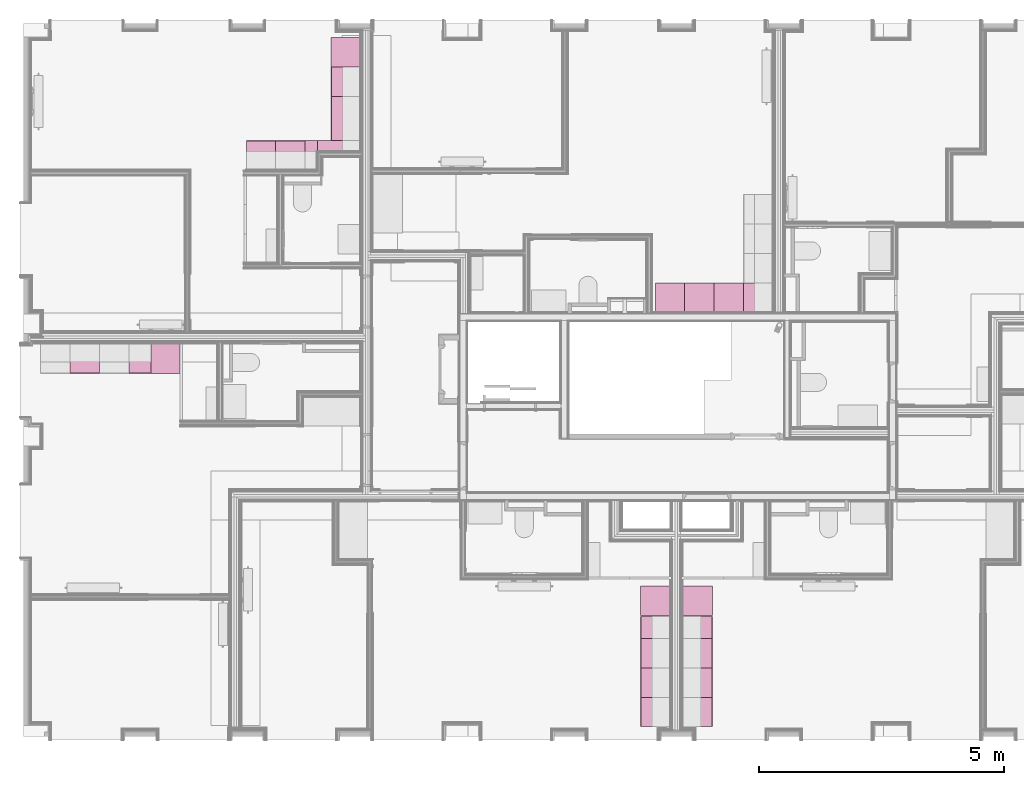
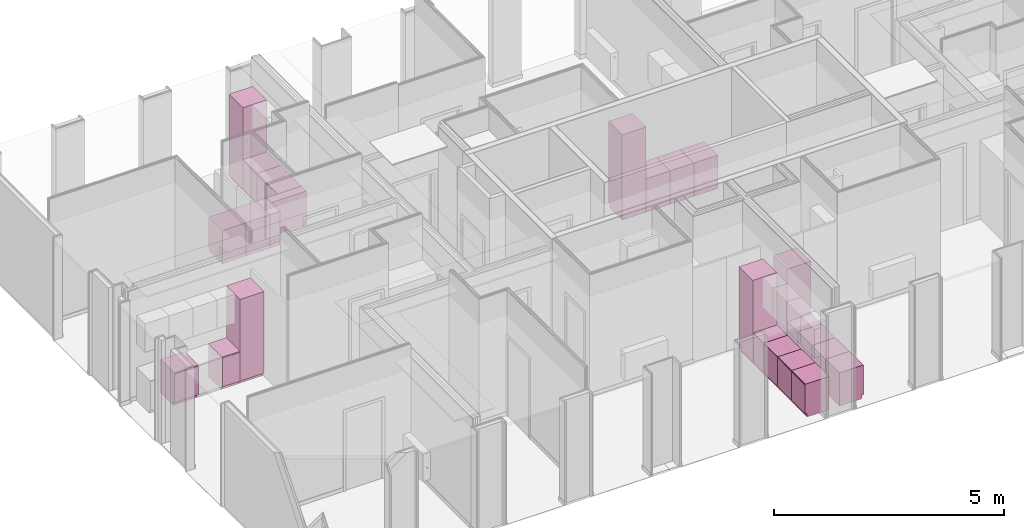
# One storey, part 63 of 64: 24 furnishings.
"""IFC2X3 building model written with IfcOpenShell, lengths in metres."""

from ifc_helpers import new_model, entity, si_unit, converted_unit, derived_unit, money_unit, direction, frame, origin_with_axes, place, context, subcontext, project, spatial, faceted_brep, material, type_object, element, save


model = new_model("IFC2X3")

# Units and contexts
model_context = context("Model", 3, precision=1e-05, world=origin_with_axes(), true_north=direction((0.0, 1.0)))
body_context = subcontext(model_context, "Body", "Model", "MODEL_VIEW", scale=1.0)
ifc_project = project(units=[si_unit("LENGTHUNIT", "METRE"), si_unit("AREAUNIT", "SQUARE_METRE"), si_unit("VOLUMEUNIT", "CUBIC_METRE"), si_unit("ABSORBEDDOSEUNIT", "GRAY"), si_unit("AMOUNTOFSUBSTANCEUNIT", "MOLE"), si_unit("DOSEEQUIVALENTUNIT", "SIEVERT"), si_unit("ELECTRICCAPACITANCEUNIT", "FARAD"), si_unit("ELECTRICCHARGEUNIT", "COULOMB"), si_unit("ELECTRICCONDUCTANCEUNIT", "SIEMENS"), si_unit("ELECTRICCURRENTUNIT", "AMPERE"), si_unit("ELECTRICRESISTANCEUNIT", "OHM"), si_unit("ELECTRICVOLTAGEUNIT", "VOLT"), si_unit("ENERGYUNIT", "JOULE"), si_unit("FORCEUNIT", "NEWTON"), si_unit("FREQUENCYUNIT", "HERTZ"), si_unit("ILLUMINANCEUNIT", "LUX"), si_unit("INDUCTANCEUNIT", "HENRY"), si_unit("LUMINOUSFLUXUNIT", "LUMEN"), si_unit("LUMINOUSINTENSITYUNIT", "CANDELA"), si_unit("MAGNETICFLUXDENSITYUNIT", "TESLA"), si_unit("MAGNETICFLUXUNIT", "WEBER"), si_unit("MASSUNIT", "GRAM"), converted_unit("PLANEANGLEUNIT", "degree", entity("IfcReal", 0.0174532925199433), si_unit("PLANEANGLEUNIT", "RADIAN"), dimensions=[0, 0, 0, 0, 0, 0, 0]), si_unit("POWERUNIT", "WATT"), si_unit("PRESSUREUNIT", "PASCAL"), si_unit("RADIOACTIVITYUNIT", "BECQUEREL"), si_unit("SOLIDANGLEUNIT", "STERADIAN"), si_unit("THERMODYNAMICTEMPERATUREUNIT", "KELVIN"), si_unit("TIMEUNIT", "SECOND"), derived_unit("ACCELERATIONUNIT", [(si_unit("LENGTHUNIT", "METRE"), 1), (si_unit("TIMEUNIT", "SECOND"), -2)]), derived_unit("ANGULARVELOCITYUNIT", [(converted_unit("PLANEANGLEUNIT", "degree", entity("IfcReal", 0.0174532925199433), si_unit("PLANEANGLEUNIT", "RADIAN"), dimensions=[0, 0, 0, 0, 0, 0, 0]), 1), (si_unit("TIMEUNIT", "SECOND"), -1)]), derived_unit("CURVATUREUNIT", [(converted_unit("PLANEANGLEUNIT", "degree", entity("IfcReal", 0.0174532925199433), si_unit("PLANEANGLEUNIT", "RADIAN"), dimensions=[0, 0, 0, 0, 0, 0, 0]), 1), (si_unit("LENGTHUNIT", "METRE"), -1)]), derived_unit("DYNAMICVISCOSITYUNIT", [(si_unit("PRESSUREUNIT", "PASCAL"), 1), (si_unit("TIMEUNIT", "SECOND"), 1)]), derived_unit("HEATFLUXDENSITYUNIT", [(si_unit("POWERUNIT", "WATT"), 1), (si_unit("LENGTHUNIT", "METRE"), -2)]), derived_unit("HEATINGVALUEUNIT", [(si_unit("ENERGYUNIT", "JOULE"), 1), (si_unit("MASSUNIT", "GRAM"), -1)]), derived_unit("INTEGERCOUNTRATEUNIT", [(si_unit("TIMEUNIT", "SECOND"), -1)]), derived_unit("IONCONCENTRATIONUNIT", [(si_unit("MASSUNIT", "GRAM"), 1), (si_unit("VOLUMEUNIT", "CUBIC_METRE"), -1)]), derived_unit("ISOTHERMALMOISTURECAPACITYUNIT", [(si_unit("VOLUMEUNIT", "CUBIC_METRE"), 1), (si_unit("MASSUNIT", "GRAM"), -1)]), derived_unit("KINEMATICVISCOSITYUNIT", [(si_unit("AREAUNIT", "SQUARE_METRE"), 1), (si_unit("TIMEUNIT", "SECOND"), -1)]), derived_unit("LINEARFORCEUNIT", [(si_unit("FORCEUNIT", "NEWTON"), 1), (si_unit("LENGTHUNIT", "METRE"), -1)]), derived_unit("LINEARMOMENTUNIT", [(si_unit("FORCEUNIT", "NEWTON"), 1), (si_unit("LENGTHUNIT", "METRE"), -1)]), derived_unit("LINEARSTIFFNESSUNIT", [(si_unit("FORCEUNIT", "NEWTON"), 1), (si_unit("LENGTHUNIT", "METRE"), -1)]), derived_unit("LINEARVELOCITYUNIT", [(si_unit("LENGTHUNIT", "METRE"), 1), (si_unit("TIMEUNIT", "SECOND"), -1)]), derived_unit("LUMINOUSINTENSITYDISTRIBUTIONUNIT", [(si_unit("LUMINOUSINTENSITYUNIT", "CANDELA"), 1), (si_unit("LUMINOUSFLUXUNIT", "LUMEN"), -1)]), derived_unit("MASSDENSITYUNIT", [(si_unit("MASSUNIT", "GRAM"), 1), (si_unit("VOLUMEUNIT", "CUBIC_METRE"), -1)]), derived_unit("MASSFLOWRATEUNIT", [(si_unit("MASSUNIT", "GRAM"), 1), (si_unit("TIMEUNIT", "SECOND"), -1)]), derived_unit("MASSPERLENGTHUNIT", [(si_unit("MASSUNIT", "GRAM"), 1), (si_unit("LENGTHUNIT", "METRE"), -1)]), derived_unit("MODULUSOFELASTICITYUNIT", [(si_unit("FORCEUNIT", "NEWTON"), 1), (si_unit("AREAUNIT", "SQUARE_METRE"), -1)]), derived_unit("MODULUSOFLINEARSUBGRADEREACTIONUNIT", [(si_unit("FORCEUNIT", "NEWTON"), 1), (si_unit("LENGTHUNIT", "METRE"), -2)]), derived_unit("MODULUSOFROTATIONALSUBGRADEREACTIONUNIT", [(si_unit("FORCEUNIT", "NEWTON"), 1), (si_unit("LENGTHUNIT", "METRE"), 1)]), derived_unit("MODULUSOFSUBGRADEREACTIONUNIT", [(si_unit("FORCEUNIT", "NEWTON"), 1), (si_unit("VOLUMEUNIT", "CUBIC_METRE"), -1)]), derived_unit("MOISTUREDIFFUSIVITYUNIT", [(si_unit("VOLUMEUNIT", "CUBIC_METRE"), 1), (si_unit("TIMEUNIT", "SECOND"), -1)]), derived_unit("MOLECULARWEIGHTUNIT", [(si_unit("MASSUNIT", "GRAM"), 1), (si_unit("AMOUNTOFSUBSTANCEUNIT", "MOLE"), -1)]), derived_unit("PLANARFORCEUNIT", [(si_unit("FORCEUNIT", "NEWTON"), 1), (si_unit("LENGTHUNIT", "METRE"), -2)]), derived_unit("ROTATIONALFREQUENCYUNIT", [(si_unit("TIMEUNIT", "SECOND"), -1)]), derived_unit("ROTATIONALMASSUNIT", [(si_unit("MASSUNIT", "GRAM"), 1), (si_unit("LENGTHUNIT", "METRE"), 2)]), derived_unit("ROTATIONALSTIFFNESSUNIT", [(si_unit("FORCEUNIT", "NEWTON"), 1), (si_unit("LENGTHUNIT", "METRE"), 1), (converted_unit("PLANEANGLEUNIT", "degree", entity("IfcReal", 0.0174532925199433), si_unit("PLANEANGLEUNIT", "RADIAN"), dimensions=[0, 0, 0, 0, 0, 0, 0]), -1)]), derived_unit("SECTIONAREAINTEGRALUNIT", [(si_unit("LENGTHUNIT", "METRE"), 5)]), derived_unit("SECTIONMODULUSUNIT", [(si_unit("LENGTHUNIT", "METRE"), 3)]), derived_unit("SHEARMODULUSUNIT", [(si_unit("FORCEUNIT", "NEWTON"), 1), (si_unit("AREAUNIT", "SQUARE_METRE"), -1)]), derived_unit("SOUNDPOWERUNIT", [(si_unit("ENERGYUNIT", "JOULE"), 1), (si_unit("TIMEUNIT", "SECOND"), -1)]), derived_unit("SPECIFICHEATCAPACITYUNIT", [(si_unit("FORCEUNIT", "NEWTON"), 1), (si_unit("MASSUNIT", "GRAM"), -1), (si_unit("THERMODYNAMICTEMPERATUREUNIT", "KELVIN"), -1)]), derived_unit("TEMPERATUREGRADIENTUNIT", [(si_unit("THERMODYNAMICTEMPERATUREUNIT", "KELVIN"), 1), (si_unit("LENGTHUNIT", "METRE"), -1)]), derived_unit("THERMALADMITTANCEUNIT", [(si_unit("POWERUNIT", "WATT"), 1), (si_unit("AREAUNIT", "SQUARE_METRE"), -1), (si_unit("THERMODYNAMICTEMPERATUREUNIT", "KELVIN"), -1)]), derived_unit("THERMALCONDUCTANCEUNIT", [(si_unit("POWERUNIT", "WATT"), 1), (si_unit("LENGTHUNIT", "METRE"), -1), (si_unit("THERMODYNAMICTEMPERATUREUNIT", "KELVIN"), -1)]), derived_unit("THERMALEXPANSIONCOEFFICIENTUNIT", [(si_unit("THERMODYNAMICTEMPERATUREUNIT", "KELVIN"), -1)]), derived_unit("THERMALRESISTANCEUNIT", [(si_unit("AREAUNIT", "SQUARE_METRE"), 1), (si_unit("POWERUNIT", "WATT"), -1)]), derived_unit("THERMALTRANSMITTANCEUNIT", [(si_unit("POWERUNIT", "WATT"), 1), (si_unit("AREAUNIT", "SQUARE_METRE"), -1), (si_unit("THERMODYNAMICTEMPERATUREUNIT", "KELVIN"), -1)]), derived_unit("TORQUEUNIT", [(si_unit("FORCEUNIT", "NEWTON"), 1), (si_unit("LENGTHUNIT", "METRE"), 1)]), derived_unit("VAPORPERMEABILITYUNIT", [(si_unit("MASSUNIT", "GRAM"), 1), (si_unit("TIMEUNIT", "SECOND"), -1)]), derived_unit("VOLUMETRICFLOWRATEUNIT", [(si_unit("VOLUMEUNIT", "CUBIC_METRE"), 1), (si_unit("TIMEUNIT", "SECOND"), -1)]), derived_unit("WARPINGCONSTANTUNIT", [(si_unit("LENGTHUNIT", "METRE"), 6)]), derived_unit("WARPINGMOMENTUNIT", [(si_unit("FORCEUNIT", "NEWTON"), 1), (si_unit("LENGTHUNIT", "METRE"), 2)]), money_unit("GBP")], contexts=[model_context])

# Site, building, storey, space
site_placement = place(None, origin_with_axes())
site = spatial("IfcSite", under=ifc_project, at=site_placement, Name="Site", CompositionType="ELEMENT")
building_placement = place(site_placement, origin_with_axes())
building = spatial("IfcBuilding", under=site, at=building_placement, Name="Building01", CompositionType="ELEMENT")
storey_placement = place(building_placement, frame((0.0, 0.0, 8.64), z_axis=(0.0, 0.0, 1.0), x_axis=(1.0, 0.0, 0.0)))
storey = spatial("IfcBuildingStorey", under=building, at=storey_placement, Name="2F", CompositionType="ELEMENT", Elevation=8.64)
space_1_placement = place(storey_placement, frame((0.318, 8.21067, 0.017975), z_axis=(0.0, 0.0, 1.0), x_axis=(0.0, -1.0, 0.0)))
space_1 = spatial("IfcSpace", under=storey, at=space_1_placement, Name="13", CompositionType="ELEMENT", InteriorOrExteriorSpace="NOTDEFINED")

# Furnishing
ifc_material = material(Name="A_BSUK_StorageScreening_Ffe")
furniture_type_1 = type_object("IfcFurnitureType", Name="SHE_A-Kitchenunit-Tall")
placement = place(storey_placement, frame((0.0, 0.0, -8.64), z_axis=(0.0, 0.0, 1.0), x_axis=(1.0, 0.0, 0.0)))
element("IfcFurnishingElement", 1, at=placement, inside=space_1, type_object=furniture_type_1, material=ifc_material, Name="13", ObjectType="SHE_A-Kitchenunit-Tall", context=body_context, shape_type="Brep", body=[
    faceted_brep([(2.77073, 8.18817, 10.904), (3.37073, 8.18817, 10.904), (3.37073, 8.18817, 8.644), (2.77073, 8.18817, 8.644), (3.37073, 7.58817, 10.904), (3.37073, 7.58817, 8.744), (3.37073, 7.63817, 8.744), (3.37073, 7.63817, 8.644), (2.77073, 7.63817, 8.744), (2.77073, 7.63817, 8.644), (2.77073, 7.58817, 8.744), (2.77073, 7.58817, 10.904)], [[[0, 1, 2, 3]], [[1, 4, 5, 6, 7, 2]], [[8, 9, 7, 6]], [[8, 10, 11, 0, 3, 9]], [[2, 7, 9, 3]], [[5, 4, 11, 10]], [[11, 4, 1, 0]], [[6, 5, 10, 8]]]),
])

# Space
space_2_placement = place(storey_placement, frame((11.275, 10.415, 0.017975), z_axis=(0.0, 0.0, 1.0), x_axis=(1.0, 0.0, 0.0)))
space_2 = spatial("IfcSpace", under=storey, at=space_2_placement, Name="k/d/l", CompositionType="ELEMENT", InteriorOrExteriorSpace="NOTDEFINED")

# Furnishing
element("IfcFurnishingElement", 2, at=placement, inside=space_2, type_object=furniture_type_1, material=ifc_material, Name="15", ObjectType="SHE_A-Kitchenunit-Tall", context=body_context, shape_type="Brep", body=[
    faceted_brep([(13.668132, 8.835, 10.904), (13.068132, 8.835, 10.904), (13.068132, 8.835, 8.644), (13.668132, 8.835, 8.644), (13.068132, 9.435, 10.904), (13.068132, 9.435, 8.744), (13.068132, 9.385, 8.744), (13.068132, 9.385, 8.644), (13.668132, 9.385, 8.744), (13.668132, 9.385, 8.644), (13.668132, 9.435, 8.744), (13.668132, 9.435, 10.904)], [[[0, 1, 2, 3]], [[1, 4, 5, 6, 7, 2]], [[8, 9, 7, 6]], [[8, 10, 11, 0, 3, 9]], [[2, 7, 9, 3]], [[5, 4, 11, 10]], [[11, 4, 1, 0]], [[6, 5, 10, 8]]]),
])

# Space
space_3_placement = place(storey_placement, frame((17.9025, 3.385, 0.017975), z_axis=(0.0, 0.0, 1.0), x_axis=(-1.0, 0.0, 0.0)))
space_3 = spatial("IfcSpace", under=storey, at=space_3_placement, Name="k/d/l", CompositionType="ELEMENT", InteriorOrExteriorSpace="NOTDEFINED")

# Furnishing
element("IfcFurnishingElement", 3, at=placement, inside=space_3, type_object=furniture_type_1, material=ifc_material, Name="11", ObjectType="SHE_A-Kitchenunit-Tall", context=body_context, shape_type="Brep", body=[
    faceted_brep([(13.631, 3.245001, 8.644), (13.631, 2.645001, 8.644), (13.631, 2.645001, 10.904), (13.631, 3.245001, 10.904), (14.181, 2.645001, 8.644), (14.181, 2.645001, 8.744), (14.231, 2.645001, 8.744), (14.231, 2.645001, 10.904), (14.181, 3.245001, 8.644), (14.181, 3.245001, 8.744), (14.231, 3.245001, 10.904), (14.231, 3.245001, 8.744)], [[[0, 1, 2, 3]], [[1, 4, 5, 6, 7, 2]], [[5, 4, 8, 9]], [[8, 0, 3, 10, 11, 9]], [[0, 8, 4, 1]], [[11, 10, 7, 6]], [[3, 2, 7, 10]], [[9, 11, 6, 5]]]),
])

# Space
space_4_placement = place(storey_placement, frame((6.595, 4.98, 0.017975), z_axis=(0.0, 0.0, 1.0), x_axis=(0.0, -1.0, 0.0)))
space_4 = spatial("IfcSpace", under=storey, at=space_4_placement, Name="k/d/l", CompositionType="ELEMENT", InteriorOrExteriorSpace="NOTDEFINED")

# Furnishing
element("IfcFurnishingElement", 4, at=placement, inside=space_4, type_object=furniture_type_1, material=ifc_material, Name="12", ObjectType="SHE_A-Kitchenunit-Tall", context=body_context, shape_type="Brep", body=[
    faceted_brep([(13.369, 3.245001, 10.904), (13.369, 2.645001, 10.904), (13.369, 2.645001, 8.644), (13.369, 3.245001, 8.644), (12.769, 2.645001, 10.904), (12.769, 2.645001, 8.744), (12.819, 2.645001, 8.744), (12.819, 2.645001, 8.644), (12.819, 3.245001, 8.744), (12.819, 3.245001, 8.644), (12.769, 3.245001, 8.744), (12.769, 3.245001, 10.904)], [[[0, 1, 2, 3]], [[1, 4, 5, 6, 7, 2]], [[8, 9, 7, 6]], [[8, 10, 11, 0, 3, 9]], [[2, 7, 9, 3]], [[5, 4, 11, 10]], [[11, 4, 1, 0]], [[6, 5, 10, 8]]]),
])

# Space
space_5_placement = place(storey_placement, frame((0.318, 11.72567, 0.017975), z_axis=(0.0, 0.0, 1.0), x_axis=(1.0, 0.0, 0.0)))
space_5 = spatial("IfcSpace", under=storey, at=space_5_placement, Name="k/d/l", CompositionType="ELEMENT", InteriorOrExteriorSpace="NOTDEFINED")

# Furnishings
element("IfcFurnishingElement", 5, at=placement, inside=space_5, type_object=furniture_type_1, material=ifc_material, Name="14", ObjectType="SHE_A-Kitchenunit-Tall", context=body_context, shape_type="Brep", body=[
    faceted_brep([(7.049669, 13.84067, 8.644), (7.049669, 14.44067, 8.644), (7.049669, 14.44067, 10.904), (7.049669, 13.84067, 10.904), (6.499669, 14.44067, 8.644), (6.499669, 14.44067, 8.744), (6.449669, 14.44067, 8.744), (6.449669, 14.44067, 10.904), (6.499669, 13.84067, 8.644), (6.499669, 13.84067, 8.744), (6.449669, 13.84067, 10.904), (6.449669, 13.84067, 8.744)], [[[0, 1, 2, 3]], [[1, 4, 5, 6, 7, 2]], [[5, 4, 8, 9]], [[8, 0, 3, 10, 11, 9]], [[0, 8, 4, 1]], [[11, 10, 7, 6]], [[3, 2, 7, 10]], [[9, 11, 6, 5]]]),
])
furniture_type_2 = type_object("IfcFurnitureType", Name="SHE_A-Kitchenunit-Base")
element("IfcFurnishingElement", 6, at=placement, inside=space_1, type_object=furniture_type_2, material=ifc_material, Name="13", ObjectType="SHE_A-Kitchenunit-Base", context=body_context, shape_type="Brep", body=[
    faceted_brep([(1.12073, 8.18817, 9.529), (1.72073, 8.18817, 9.529), (1.72073, 8.18817, 8.644), (1.12073, 8.18817, 8.644), (1.72073, 7.595241, 9.529), (1.72073, 7.58817, 9.521929), (1.72073, 7.58817, 9.511071), (1.72073, 7.595241, 9.504), (1.72073, 7.58817, 9.504), (1.72073, 7.58817, 8.744), (1.72073, 7.63817, 8.744), (1.72073, 7.63817, 8.644), (1.12073, 7.63817, 8.744), (1.12073, 7.63817, 8.644), (1.12073, 7.58817, 8.744), (1.12073, 7.58817, 9.504), (1.12073, 7.595241, 9.504), (1.12073, 7.58817, 9.511071), (1.12073, 7.58817, 9.521929), (1.12073, 7.595241, 9.529)], [[[0, 1, 2, 3]], [[1, 4, 5, 6, 7, 8, 9, 10, 11, 2]], [[12, 13, 11, 10]], [[12, 14, 15, 16, 17, 18, 19, 0, 3, 13]], [[2, 11, 13, 3]], [[7, 16, 15, 8]], [[9, 8, 15, 14]], [[10, 9, 14, 12]], [[5, 18, 17, 6]], [[19, 4, 1, 0]], [[6, 17, 16, 7]], [[4, 19, 18, 5]]]),
])
element("IfcFurnishingElement", 7, at=placement, inside=space_2, type_object=furniture_type_2, material=ifc_material, Name="15", ObjectType="SHE_A-Kitchenunit-Base", context=body_context, shape_type="Brep", body=[
    faceted_brep([(14.868132, 8.835, 9.529), (14.268132, 8.835, 9.529), (14.268132, 8.835, 8.644), (14.868132, 8.835, 8.644), (14.268132, 9.427929, 9.529), (14.268132, 9.435, 9.521929), (14.268132, 9.435, 9.511071), (14.268132, 9.427929, 9.504), (14.268132, 9.435, 9.504), (14.268132, 9.435, 8.744), (14.268132, 9.385, 8.744), (14.268132, 9.385, 8.644), (14.868132, 9.385, 8.744), (14.868132, 9.385, 8.644), (14.868132, 9.435, 8.744), (14.868132, 9.435, 9.504), (14.868132, 9.427929, 9.504), (14.868132, 9.435, 9.511071), (14.868132, 9.435, 9.521929), (14.868132, 9.427929, 9.529)], [[[0, 1, 2, 3]], [[1, 4, 5, 6, 7, 8, 9, 10, 11, 2]], [[12, 13, 11, 10]], [[12, 14, 15, 16, 17, 18, 19, 0, 3, 13]], [[2, 11, 13, 3]], [[7, 16, 15, 8]], [[9, 8, 15, 14]], [[10, 9, 14, 12]], [[5, 18, 17, 6]], [[19, 4, 1, 0]], [[6, 17, 16, 7]], [[4, 19, 18, 5]]]),
])
element("IfcFurnishingElement", 8, at=placement, inside=space_2, type_object=furniture_type_2, material=ifc_material, Name="15", ObjectType="SHE_A-Kitchenunit-Base", context=body_context, shape_type="Brep", body=[
    faceted_brep([(15.468132, 8.835, 9.529), (14.868132, 8.835, 9.529), (14.868132, 8.835, 8.644), (15.468132, 8.835, 8.644), (14.868132, 9.427929, 9.529), (14.868132, 9.435, 9.521929), (14.868132, 9.435, 9.511071), (14.868132, 9.427929, 9.504), (14.868132, 9.435, 9.504), (14.868132, 9.435, 8.744), (14.868132, 9.385, 8.744), (14.868132, 9.385, 8.644), (15.468132, 9.385, 8.744), (15.468132, 9.385, 8.644), (15.468132, 9.435, 8.744), (15.468132, 9.435, 9.504), (15.468132, 9.427929, 9.504), (15.468132, 9.435, 9.511071), (15.468132, 9.435, 9.521929), (15.468132, 9.427929, 9.529)], [[[0, 1, 2, 3]], [[1, 4, 5, 6, 7, 8, 9, 10, 11, 2]], [[12, 13, 11, 10]], [[12, 14, 15, 16, 17, 18, 19, 0, 3, 13]], [[2, 11, 13, 3]], [[7, 16, 15, 8]], [[9, 8, 15, 14]], [[10, 9, 14, 12]], [[5, 18, 17, 6]], [[19, 4, 1, 0]], [[6, 17, 16, 7]], [[4, 19, 18, 5]]]),
])
element("IfcFurnishingElement", 9, at=placement, inside=space_2, type_object=furniture_type_2, material=ifc_material, Name="15", ObjectType="SHE_A-Kitchenunit-Base", context=body_context, shape_type="Brep", body=[
    faceted_brep([(14.268132, 8.835, 9.529), (13.668132, 8.835, 9.529), (13.668132, 8.835, 8.644), (14.268132, 8.835, 8.644), (13.668132, 9.427929, 9.529), (13.668132, 9.435, 9.521929), (13.668132, 9.435, 9.511071), (13.668132, 9.427929, 9.504), (13.668132, 9.435, 9.504), (13.668132, 9.435, 8.744), (13.668132, 9.385, 8.744), (13.668132, 9.385, 8.644), (14.268132, 9.385, 8.744), (14.268132, 9.385, 8.644), (14.268132, 9.435, 8.744), (14.268132, 9.435, 9.504), (14.268132, 9.427929, 9.504), (14.268132, 9.435, 9.511071), (14.268132, 9.435, 9.521929), (14.268132, 9.427929, 9.529)], [[[0, 1, 2, 3]], [[1, 4, 5, 6, 7, 8, 9, 10, 11, 2]], [[12, 13, 11, 10]], [[12, 14, 15, 16, 17, 18, 19, 0, 3, 13]], [[2, 11, 13, 3]], [[7, 16, 15, 8]], [[9, 8, 15, 14]], [[10, 9, 14, 12]], [[5, 18, 17, 6]], [[19, 4, 1, 0]], [[6, 17, 16, 7]], [[4, 19, 18, 5]]]),
])
element("IfcFurnishingElement", 10, at=placement, inside=space_3, type_object=furniture_type_2, material=ifc_material, Name="11", ObjectType="SHE_A-Kitchenunit-Base", context=body_context, shape_type="Brep", body=[
    faceted_brep([(13.631, 2.175001, 8.644), (13.631, 1.575001, 8.644), (13.631, 1.575001, 9.529), (13.631, 2.175001, 9.529), (14.181, 1.575001, 8.644), (14.181, 1.575001, 8.744), (14.231, 1.575001, 8.744), (14.231, 1.575001, 9.504), (14.223929, 1.575001, 9.504), (14.231, 1.575001, 9.511071), (14.231, 1.575001, 9.521929), (14.223929, 1.575001, 9.529), (14.181, 2.175001, 8.644), (14.181, 2.175001, 8.744), (14.223929, 2.175001, 9.529), (14.231, 2.175001, 9.521929), (14.231, 2.175001, 9.511071), (14.223929, 2.175001, 9.504), (14.231, 2.175001, 9.504), (14.231, 2.175001, 8.744)], [[[0, 1, 2, 3]], [[1, 4, 5, 6, 7, 8, 9, 10, 11, 2]], [[5, 4, 12, 13]], [[12, 0, 3, 14, 15, 16, 17, 18, 19, 13]], [[0, 12, 4, 1]], [[7, 18, 17, 8]], [[19, 18, 7, 6]], [[13, 19, 6, 5]], [[9, 16, 15, 10]], [[3, 2, 11, 14]], [[8, 17, 16, 9]], [[10, 15, 14, 11]]]),
])
element("IfcFurnishingElement", 11, at=placement, inside=space_3, type_object=furniture_type_2, material=ifc_material, Name="11", ObjectType="SHE_A-Kitchenunit-Base", context=body_context, shape_type="Brep", body=[
    faceted_brep([(13.631, 1.575001, 8.644), (13.631, 0.975001, 8.644), (13.631, 0.975001, 9.529), (13.631, 1.575001, 9.529), (14.181, 0.975001, 8.644), (14.181, 0.975001, 8.744), (14.231, 0.975001, 8.744), (14.231, 0.975001, 9.504), (14.223929, 0.975001, 9.504), (14.231, 0.975001, 9.511071), (14.231, 0.975001, 9.521929), (14.223929, 0.975001, 9.529), (14.181, 1.575001, 8.644), (14.181, 1.575001, 8.744), (14.223929, 1.575001, 9.529), (14.231, 1.575001, 9.521929), (14.231, 1.575001, 9.511071), (14.223929, 1.575001, 9.504), (14.231, 1.575001, 9.504), (14.231, 1.575001, 8.744)], [[[0, 1, 2, 3]], [[1, 4, 5, 6, 7, 8, 9, 10, 11, 2]], [[5, 4, 12, 13]], [[12, 0, 3, 14, 15, 16, 17, 18, 19, 13]], [[0, 12, 4, 1]], [[7, 18, 17, 8]], [[19, 18, 7, 6]], [[13, 19, 6, 5]], [[9, 16, 15, 10]], [[3, 2, 11, 14]], [[8, 17, 16, 9]], [[10, 15, 14, 11]]]),
])
element("IfcFurnishingElement", 12, at=placement, inside=space_3, type_object=furniture_type_2, material=ifc_material, Name="11", ObjectType="SHE_A-Kitchenunit-Base", context=body_context, shape_type="Brep", body=[
    faceted_brep([(13.631, 0.975001, 8.644), (13.631, 0.375001, 8.644), (13.631, 0.375001, 9.529), (13.631, 0.975001, 9.529), (14.181, 0.375001, 8.644), (14.181, 0.375001, 8.744), (14.231, 0.375001, 8.744), (14.231, 0.375001, 9.504), (14.223929, 0.375001, 9.504), (14.231, 0.375001, 9.511071), (14.231, 0.375001, 9.521929), (14.223929, 0.375001, 9.529), (14.181, 0.975001, 8.644), (14.181, 0.975001, 8.744), (14.223929, 0.975001, 9.529), (14.231, 0.975001, 9.521929), (14.231, 0.975001, 9.511071), (14.223929, 0.975001, 9.504), (14.231, 0.975001, 9.504), (14.231, 0.975001, 8.744)], [[[0, 1, 2, 3]], [[1, 4, 5, 6, 7, 8, 9, 10, 11, 2]], [[5, 4, 12, 13]], [[12, 0, 3, 14, 15, 16, 17, 18, 19, 13]], [[0, 12, 4, 1]], [[7, 18, 17, 8]], [[19, 18, 7, 6]], [[13, 19, 6, 5]], [[9, 16, 15, 10]], [[3, 2, 11, 14]], [[8, 17, 16, 9]], [[10, 15, 14, 11]]]),
])
element("IfcFurnishingElement", 13, at=placement, inside=space_4, type_object=furniture_type_2, material=ifc_material, Name="12", ObjectType="SHE_A-Kitchenunit-Base", context=body_context, shape_type="Brep", body=[
    faceted_brep([(13.369, 1.575001, 9.529), (13.369, 0.975001, 9.529), (13.369, 0.975001, 8.644), (13.369, 1.575001, 8.644), (12.776071, 0.975001, 9.529), (12.769, 0.975001, 9.521929), (12.769, 0.975001, 9.511071), (12.776071, 0.975001, 9.504), (12.769, 0.975001, 9.504), (12.769, 0.975001, 8.744), (12.819, 0.975001, 8.744), (12.819, 0.975001, 8.644), (12.819, 1.575001, 8.744), (12.819, 1.575001, 8.644), (12.769, 1.575001, 8.744), (12.769, 1.575001, 9.504), (12.776071, 1.575001, 9.504), (12.769, 1.575001, 9.511071), (12.769, 1.575001, 9.521929), (12.776071, 1.575001, 9.529)], [[[0, 1, 2, 3]], [[1, 4, 5, 6, 7, 8, 9, 10, 11, 2]], [[12, 13, 11, 10]], [[12, 14, 15, 16, 17, 18, 19, 0, 3, 13]], [[2, 11, 13, 3]], [[7, 16, 15, 8]], [[9, 8, 15, 14]], [[10, 9, 14, 12]], [[5, 18, 17, 6]], [[19, 4, 1, 0]], [[6, 17, 16, 7]], [[4, 19, 18, 5]]]),
])
element("IfcFurnishingElement", 14, at=placement, inside=space_4, type_object=furniture_type_2, material=ifc_material, Name="12", ObjectType="SHE_A-Kitchenunit-Base", context=body_context, shape_type="Brep", body=[
    faceted_brep([(13.369, 0.975001, 9.529), (13.369, 0.375001, 9.529), (13.369, 0.375001, 8.644), (13.369, 0.975001, 8.644), (12.776071, 0.375001, 9.529), (12.769, 0.375001, 9.521929), (12.769, 0.375001, 9.511071), (12.776071, 0.375001, 9.504), (12.769, 0.375001, 9.504), (12.769, 0.375001, 8.744), (12.819, 0.375001, 8.744), (12.819, 0.375001, 8.644), (12.819, 0.975001, 8.744), (12.819, 0.975001, 8.644), (12.769, 0.975001, 8.744), (12.769, 0.975001, 9.504), (12.776071, 0.975001, 9.504), (12.769, 0.975001, 9.511071), (12.769, 0.975001, 9.521929), (12.776071, 0.975001, 9.529)], [[[0, 1, 2, 3]], [[1, 4, 5, 6, 7, 8, 9, 10, 11, 2]], [[12, 13, 11, 10]], [[12, 14, 15, 16, 17, 18, 19, 0, 3, 13]], [[2, 11, 13, 3]], [[7, 16, 15, 8]], [[9, 8, 15, 14]], [[10, 9, 14, 12]], [[5, 18, 17, 6]], [[19, 4, 1, 0]], [[6, 17, 16, 7]], [[4, 19, 18, 5]]]),
])
element("IfcFurnishingElement", 15, at=placement, inside=space_4, type_object=furniture_type_2, material=ifc_material, Name="12", ObjectType="SHE_A-Kitchenunit-Base", context=body_context, shape_type="Brep", body=[
    faceted_brep([(13.369, 2.175001, 9.529), (13.369, 1.575001, 9.529), (13.369, 1.575001, 8.644), (13.369, 2.175001, 8.644), (12.776071, 1.575001, 9.529), (12.769, 1.575001, 9.521929), (12.769, 1.575001, 9.511071), (12.776071, 1.575001, 9.504), (12.769, 1.575001, 9.504), (12.769, 1.575001, 8.744), (12.819, 1.575001, 8.744), (12.819, 1.575001, 8.644), (12.819, 2.175001, 8.744), (12.819, 2.175001, 8.644), (12.769, 2.175001, 8.744), (12.769, 2.175001, 9.504), (12.776071, 2.175001, 9.504), (12.769, 2.175001, 9.511071), (12.769, 2.175001, 9.521929), (12.776071, 2.175001, 9.529)], [[[0, 1, 2, 3]], [[1, 4, 5, 6, 7, 8, 9, 10, 11, 2]], [[12, 13, 11, 10]], [[12, 14, 15, 16, 17, 18, 19, 0, 3, 13]], [[2, 11, 13, 3]], [[7, 16, 15, 8]], [[9, 8, 15, 14]], [[10, 9, 14, 12]], [[5, 18, 17, 6]], [[19, 4, 1, 0]], [[6, 17, 16, 7]], [[4, 19, 18, 5]]]),
])
element("IfcFurnishingElement", 16, at=placement, inside=space_5, type_object=furniture_type_2, material=ifc_material, Name="14", ObjectType="SHE_A-Kitchenunit-Base", context=body_context, shape_type="Brep", body=[
    faceted_brep([(7.049669, 13.24067, 8.644), (7.049669, 13.84067, 8.644), (7.049669, 13.84067, 9.529), (7.049669, 13.24067, 9.529), (6.499669, 13.84067, 8.644), (6.499669, 13.84067, 8.744), (6.449669, 13.84067, 8.744), (6.449669, 13.84067, 9.504), (6.45674, 13.84067, 9.504), (6.449669, 13.84067, 9.511071), (6.449669, 13.84067, 9.521929), (6.45674, 13.84067, 9.529), (6.499669, 13.24067, 8.644), (6.499669, 13.24067, 8.744), (6.45674, 13.24067, 9.529), (6.449669, 13.24067, 9.521929), (6.449669, 13.24067, 9.511071), (6.45674, 13.24067, 9.504), (6.449669, 13.24067, 9.504), (6.449669, 13.24067, 8.744)], [[[0, 1, 2, 3]], [[1, 4, 5, 6, 7, 8, 9, 10, 11, 2]], [[5, 4, 12, 13]], [[12, 0, 3, 14, 15, 16, 17, 18, 19, 13]], [[0, 12, 4, 1]], [[7, 18, 17, 8]], [[19, 18, 7, 6]], [[13, 19, 6, 5]], [[9, 16, 15, 10]], [[3, 2, 11, 14]], [[8, 17, 16, 9]], [[10, 15, 14, 11]]]),
])
element("IfcFurnishingElement", 17, at=placement, inside=space_5, type_object=furniture_type_2, material=ifc_material, Name="14", ObjectType="SHE_A-Kitchenunit-Base", context=body_context, shape_type="Brep", body=[
    faceted_brep([(4.719669, 11.74067, 8.644), (5.319669, 11.74067, 8.644), (5.319669, 11.74067, 9.529), (4.719669, 11.74067, 9.529), (5.319669, 12.29067, 8.644), (5.319669, 12.29067, 8.744), (5.319669, 12.34067, 8.744), (5.319669, 12.34067, 9.504), (5.319669, 12.333599, 9.504), (5.319669, 12.34067, 9.511071), (5.319669, 12.34067, 9.521929), (5.319669, 12.333599, 9.529), (4.719669, 12.29067, 8.644), (4.719669, 12.29067, 8.744), (4.719669, 12.333599, 9.529), (4.719669, 12.34067, 9.521929), (4.719669, 12.34067, 9.511071), (4.719669, 12.333599, 9.504), (4.719669, 12.34067, 9.504), (4.719669, 12.34067, 8.744)], [[[0, 1, 2, 3]], [[1, 4, 5, 6, 7, 8, 9, 10, 11, 2]], [[5, 4, 12, 13]], [[12, 0, 3, 14, 15, 16, 17, 18, 19, 13]], [[0, 12, 4, 1]], [[7, 18, 17, 8]], [[19, 18, 7, 6]], [[13, 19, 6, 5]], [[9, 16, 15, 10]], [[3, 2, 11, 14]], [[8, 17, 16, 9]], [[10, 15, 14, 11]]]),
])
element("IfcFurnishingElement", 18, at=placement, inside=space_5, type_object=furniture_type_2, material=ifc_material, Name="14", ObjectType="SHE_A-Kitchenunit-Base", context=body_context, shape_type="Brep", body=[
    faceted_brep([(7.049669, 12.34067, 8.644), (7.049669, 13.24067, 8.644), (7.049669, 13.24067, 9.529), (7.049669, 12.34067, 9.529), (6.499669, 13.24067, 8.644), (6.499669, 13.24067, 8.744), (6.449669, 13.24067, 8.744), (6.449669, 13.24067, 9.504), (6.45674, 13.24067, 9.504), (6.449669, 13.24067, 9.511071), (6.449669, 13.24067, 9.521929), (6.45674, 13.24067, 9.529), (6.499669, 12.34067, 8.644), (6.499669, 12.34067, 8.744), (6.45674, 12.34067, 9.529), (6.449669, 12.34067, 9.521929), (6.449669, 12.34067, 9.511071), (6.45674, 12.34067, 9.504), (6.449669, 12.34067, 9.504), (6.449669, 12.34067, 8.744)], [[[0, 1, 2, 3]], [[1, 4, 5, 6, 7, 8, 9, 10, 11, 2]], [[5, 4, 12, 13]], [[12, 0, 3, 14, 15, 16, 17, 18, 19, 13]], [[0, 12, 4, 1]], [[7, 18, 17, 8]], [[19, 18, 7, 6]], [[13, 19, 6, 5]], [[9, 16, 15, 10]], [[3, 2, 11, 14]], [[8, 17, 16, 9]], [[10, 15, 14, 11]]]),
])
element("IfcFurnishingElement", 19, at=placement, inside=space_5, type_object=furniture_type_2, material=ifc_material, Name="14", ObjectType="SHE_A-Kitchenunit-Base", context=body_context, shape_type="Brep", body=[
    faceted_brep([(5.319669, 11.74067, 8.644), (5.919669, 11.74067, 8.644), (5.919669, 11.74067, 9.529), (5.319669, 11.74067, 9.529), (5.919669, 12.29067, 8.644), (5.919669, 12.29067, 8.744), (5.919669, 12.34067, 8.744), (5.919669, 12.34067, 9.504), (5.919669, 12.333599, 9.504), (5.919669, 12.34067, 9.511071), (5.919669, 12.34067, 9.521929), (5.919669, 12.333599, 9.529), (5.319669, 12.29067, 8.644), (5.319669, 12.29067, 8.744), (5.319669, 12.333599, 9.529), (5.319669, 12.34067, 9.521929), (5.319669, 12.34067, 9.511071), (5.319669, 12.333599, 9.504), (5.319669, 12.34067, 9.504), (5.319669, 12.34067, 8.744)], [[[0, 1, 2, 3]], [[1, 4, 5, 6, 7, 8, 9, 10, 11, 2]], [[5, 4, 12, 13]], [[12, 0, 3, 14, 15, 16, 17, 18, 19, 13]], [[0, 12, 4, 1]], [[7, 18, 17, 8]], [[19, 18, 7, 6]], [[13, 19, 6, 5]], [[9, 16, 15, 10]], [[3, 2, 11, 14]], [[8, 17, 16, 9]], [[10, 15, 14, 11]]]),
])
element("IfcFurnishingElement", 20, at=placement, inside=space_5, type_object=furniture_type_2, material=ifc_material, Name="14", ObjectType="SHE_A-Kitchenunit-Base", context=body_context, shape_type="Brep", body=[
    faceted_brep([(5.919669, 11.74067, 8.644), (6.169669, 11.74067, 8.644), (6.169669, 11.74067, 9.529), (5.919669, 11.74067, 9.529), (6.169669, 12.29067, 8.644), (6.169669, 12.29067, 8.744), (6.169669, 12.34067, 8.744), (6.169669, 12.34067, 9.504), (6.169669, 12.337724, 9.504), (6.169669, 12.34067, 9.506946), (6.169669, 12.34067, 9.526054), (6.169669, 12.337724, 9.529), (5.919669, 12.29067, 8.644), (5.919669, 12.29067, 8.744), (5.919669, 12.337724, 9.529), (5.919669, 12.34067, 9.526054), (5.919669, 12.34067, 9.506946), (5.919669, 12.337724, 9.504), (5.919669, 12.34067, 9.504), (5.919669, 12.34067, 8.744)], [[[0, 1, 2, 3]], [[1, 4, 5, 6, 7, 8, 9, 10, 11, 2]], [[5, 4, 12, 13]], [[12, 0, 3, 14, 15, 16, 17, 18, 19, 13]], [[0, 12, 4, 1]], [[7, 18, 17, 8]], [[19, 18, 7, 6]], [[13, 19, 6, 5]], [[9, 16, 15, 10]], [[3, 2, 11, 14]], [[8, 17, 16, 9]], [[10, 15, 14, 11]]]),
])
element("IfcFurnishingElement", 21, at=placement, inside=space_5, type_object=furniture_type_2, material=ifc_material, Name="14", ObjectType="SHE_A-Kitchenunit-Base", context=body_context, shape_type="Brep", body=[
    faceted_brep([(6.169669, 12.12567, 8.644), (7.039792, 12.12567, 8.644), (7.039792, 12.12567, 8.744), (7.049669, 12.12567, 8.744), (7.049669, 12.12567, 9.529), (6.169669, 12.12567, 9.529), (7.039792, 12.29067, 8.644), (7.039792, 12.29067, 8.744), (6.169669, 12.29067, 8.644), (6.169669, 12.29067, 8.744), (6.169669, 12.337724, 9.529), (6.169669, 12.34067, 9.526054), (6.169669, 12.34067, 9.506946), (6.169669, 12.337724, 9.504), (6.169669, 12.34067, 9.504), (6.169669, 12.34067, 8.744), (7.049669, 12.34067, 9.504), (7.049669, 12.337724, 9.504), (7.049669, 12.34067, 8.744), (7.049669, 12.34067, 9.506946), (7.049669, 12.34067, 9.526054), (7.049669, 12.337724, 9.529)], [[[0, 1, 2, 3, 4, 5]], [[2, 1, 6, 7]], [[7, 6, 8, 9]], [[8, 0, 5, 10, 11, 12, 13, 14, 15, 9]], [[0, 8, 6, 1]], [[16, 14, 13, 17]], [[15, 14, 16, 18]], [[18, 16, 17, 19, 20, 21, 4, 3]], [[9, 15, 18, 3, 2, 7]], [[19, 12, 11, 20]], [[5, 4, 21, 10]], [[17, 13, 12, 19]], [[20, 11, 10, 21]]]),
])
furniture_type_3 = type_object("IfcFurnitureType", Name="SHE_A-Kitchenunit-Base60x45")
element("IfcFurnishingElement", 22, at=placement, inside=space_3, type_object=furniture_type_3, material=ifc_material, Name="11", ObjectType="SHE_A-Kitchenunit-Base60x45", context=body_context, shape_type="Brep", body=[
    faceted_brep([(13.631, 2.175001, 9.529), (13.631, 2.625001, 9.529), (13.631, 2.625001, 8.644), (13.631, 2.175001, 8.644), (14.223929, 2.625001, 9.529), (14.231, 2.625001, 9.521929), (14.231, 2.625001, 9.511071), (14.223929, 2.625001, 9.504), (14.231, 2.625001, 9.504), (14.231, 2.625001, 8.744), (14.181, 2.625001, 8.744), (14.181, 2.625001, 8.644), (14.181, 2.175001, 8.744), (14.181, 2.175001, 8.644), (14.231, 2.175001, 8.744), (14.231, 2.175001, 9.504), (14.223929, 2.175001, 9.504), (14.231, 2.175001, 9.511071), (14.231, 2.175001, 9.521929), (14.223929, 2.175001, 9.529)], [[[0, 1, 2, 3]], [[1, 4, 5, 6, 7, 8, 9, 10, 11, 2]], [[12, 13, 11, 10]], [[12, 14, 15, 16, 17, 18, 19, 0, 3, 13]], [[2, 11, 13, 3]], [[7, 16, 15, 8]], [[9, 8, 15, 14]], [[10, 9, 14, 12]], [[5, 18, 17, 6]], [[19, 4, 1, 0]], [[6, 17, 16, 7]], [[4, 19, 18, 5]]]),
])
element("IfcFurnishingElement", 23, at=placement, inside=space_4, type_object=furniture_type_3, material=ifc_material, Name="12", ObjectType="SHE_A-Kitchenunit-Base60x45", context=body_context, shape_type="Brep", body=[
    faceted_brep([(13.369, 2.175001, 8.644), (13.369, 2.625001, 8.644), (13.369, 2.625001, 9.529), (13.369, 2.175001, 9.529), (12.819, 2.625001, 8.644), (12.819, 2.625001, 8.744), (12.769, 2.625001, 8.744), (12.769, 2.625001, 9.504), (12.776071, 2.625001, 9.504), (12.769, 2.625001, 9.511071), (12.769, 2.625001, 9.521929), (12.776071, 2.625001, 9.529), (12.819, 2.175001, 8.644), (12.819, 2.175001, 8.744), (12.776071, 2.175001, 9.529), (12.769, 2.175001, 9.521929), (12.769, 2.175001, 9.511071), (12.776071, 2.175001, 9.504), (12.769, 2.175001, 9.504), (12.769, 2.175001, 8.744)], [[[0, 1, 2, 3]], [[1, 4, 5, 6, 7, 8, 9, 10, 11, 2]], [[5, 4, 12, 13]], [[12, 0, 3, 14, 15, 16, 17, 18, 19, 13]], [[0, 12, 4, 1]], [[7, 18, 17, 8]], [[19, 18, 7, 6]], [[13, 19, 6, 5]], [[9, 16, 15, 10]], [[3, 2, 11, 14]], [[8, 17, 16, 9]], [[10, 15, 14, 11]]]),
])
element("IfcFurnishingElement", 24, at=placement, inside=space_1, type_object=furniture_type_3, material=ifc_material, Name="13", ObjectType="SHE_A-Kitchenunit-Base60x45", context=body_context, shape_type="Brep", body=[
    faceted_brep([(2.32073, 8.18817, 9.529), (2.77073, 8.18817, 9.529), (2.77073, 8.18817, 8.644), (2.32073, 8.18817, 8.644), (2.77073, 7.595241, 9.529), (2.77073, 7.58817, 9.521929), (2.77073, 7.58817, 9.511071), (2.77073, 7.595241, 9.504), (2.77073, 7.58817, 9.504), (2.77073, 7.58817, 8.744), (2.77073, 7.63817, 8.744), (2.77073, 7.63817, 8.644), (2.32073, 7.63817, 8.744), (2.32073, 7.63817, 8.644), (2.32073, 7.58817, 8.744), (2.32073, 7.58817, 9.504), (2.32073, 7.595241, 9.504), (2.32073, 7.58817, 9.511071), (2.32073, 7.58817, 9.521929), (2.32073, 7.595241, 9.529)], [[[0, 1, 2, 3]], [[1, 4, 5, 6, 7, 8, 9, 10, 11, 2]], [[12, 13, 11, 10]], [[12, 14, 15, 16, 17, 18, 19, 0, 3, 13]], [[2, 11, 13, 3]], [[7, 16, 15, 8]], [[9, 8, 15, 14]], [[10, 9, 14, 12]], [[5, 18, 17, 6]], [[19, 4, 1, 0]], [[6, 17, 16, 7]], [[4, 19, 18, 5]]]),
])

save(model, "model.ifc")
